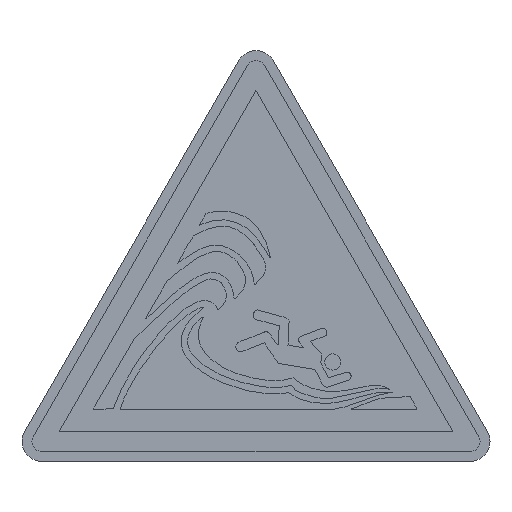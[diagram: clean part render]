
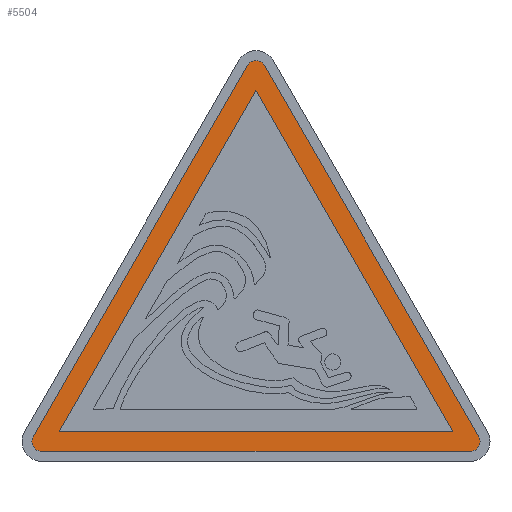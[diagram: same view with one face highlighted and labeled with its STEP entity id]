
A CAD part, top view. The second image highlights one B-rep face of the part: STEP entity #5504.
In plain terms, the highlighted planar face has unit normal (0, 0, 1).
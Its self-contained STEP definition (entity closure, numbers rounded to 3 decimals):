
#102 = CARTESIAN_POINT ( 'NONE',  ( 0., 39.301, 0.22 ) ) ;
#329 = VERTEX_POINT ( 'NONE', #4854 ) ;
#998 = EDGE_CURVE ( 'NONE', #4666, #9680, #3968, .T. ) ;
#1261 = VECTOR ( 'NONE', #10037, 1000. ) ;
#1443 = VECTOR ( 'NONE', #4115, 1000. ) ;
#1560 = ORIENTED_EDGE ( 'NONE', *, *, #4547, .T. ) ;
#1707 = DIRECTION ( 'NONE',  ( 0., 0., 1. ) ) ;
#2191 = DIRECTION ( 'NONE',  ( 1., 0., 0. ) ) ;
#2283 = CARTESIAN_POINT ( 'NONE',  ( -21.536, 1., 0.22 ) ) ;
#2492 = CARTESIAN_POINT ( 'NONE',  ( -21.536, 1., 0.22 ) ) ;
#2601 = CARTESIAN_POINT ( 'NONE',  ( 0.866, 39.801, 0.22 ) ) ;
#2767 = AXIS2_PLACEMENT_3D ( 'NONE', #14704, #1707, #3029 ) ;
#2775 = CARTESIAN_POINT ( 'NONE',  ( -19.804, 3., 0.22 ) ) ;
#3015 = CARTESIAN_POINT ( 'NONE',  ( -22.402, 2.5, 0.22 ) ) ;
#3029 = DIRECTION ( 'NONE',  ( 1., 0., 0. ) ) ;
#3062 = VECTOR ( 'NONE', #4689, 1000. ) ;
#3126 = AXIS2_PLACEMENT_3D ( 'NONE', #14872, #7164, #12338 ) ;
#3482 = VECTOR ( 'NONE', #14672, 1000. ) ;
#3654 = LINE ( 'NONE', #12604, #1443 ) ;
#3666 = CIRCLE ( 'NONE', #3126, 1. ) ;
#3968 = CIRCLE ( 'NONE', #16368, 1. ) ;
#4115 = DIRECTION ( 'NONE',  ( 1., 0., 0. ) ) ;
#4349 = CARTESIAN_POINT ( 'NONE',  ( 21.536, 2., 0.22 ) ) ;
#4473 = ORIENTED_EDGE ( 'NONE', *, *, #11512, .T. ) ;
#4547 = EDGE_CURVE ( 'NONE', #329, #6539, #11491, .T. ) ;
#4666 = VERTEX_POINT ( 'NONE', #15185 ) ;
#4679 = VERTEX_POINT ( 'NONE', #2601 ) ;
#4689 = DIRECTION ( 'NONE',  ( -0.5, 0.866, 0. ) ) ;
#4778 = CARTESIAN_POINT ( 'NONE',  ( 22.402, 2.5, 0.22 ) ) ;
#4854 = CARTESIAN_POINT ( 'NONE',  ( -0.866, 39.801, 0.22 ) ) ;
#4894 = DIRECTION ( 'NONE',  ( 1., 0., 0. ) ) ;
#5219 = DIRECTION ( 'NONE',  ( 0., 0., 1. ) ) ;
#5442 = ORIENTED_EDGE ( 'NONE', *, *, #13391, .T. ) ;
#5504 = ADVANCED_FACE ( 'NONE', ( #14785, #10728 ), #13272, .T. ) ;
#6238 = VECTOR ( 'NONE', #2191, 1000. ) ;
#6256 = ORIENTED_EDGE ( 'NONE', *, *, #11839, .F. ) ;
#6445 = EDGE_CURVE ( 'NONE', #13539, #11587, #3654, .T. ) ;
#6539 = VERTEX_POINT ( 'NONE', #3015 ) ;
#6713 = EDGE_CURVE ( 'NONE', #11734, #4679, #9997, .T. ) ;
#7164 = DIRECTION ( 'NONE',  ( 0., 0., 1. ) ) ;
#7170 = CARTESIAN_POINT ( 'NONE',  ( -21.536, 2., 0.22 ) ) ;
#7297 = LINE ( 'NONE', #11287, #16292 ) ;
#7345 = ORIENTED_EDGE ( 'NONE', *, *, #6445, .F. ) ;
#7655 = EDGE_CURVE ( 'NONE', #6539, #4666, #3666, .T. ) ;
#8055 = CIRCLE ( 'NONE', #14574, 1. ) ;
#8398 = LINE ( 'NONE', #2283, #6238 ) ;
#8564 = EDGE_LOOP ( 'NONE', ( #4473, #1560, #16700, #10056, #5442, #8830, #14048 ) ) ;
#8661 = CARTESIAN_POINT ( 'NONE',  ( -0.866, 39.801, 0.22 ) ) ;
#8830 = ORIENTED_EDGE ( 'NONE', *, *, #11931, .T. ) ;
#9264 = VERTEX_POINT ( 'NONE', #16083 ) ;
#9489 = DIRECTION ( 'NONE',  ( 0., 0., 1. ) ) ;
#9587 = DIRECTION ( 'NONE',  ( 1., 0., 0. ) ) ;
#9680 = VERTEX_POINT ( 'NONE', #2492 ) ;
#9782 = DIRECTION ( 'NONE',  ( 0., 0., 1. ) ) ;
#9997 = LINE ( 'NONE', #4778, #3062 ) ;
#10013 = CARTESIAN_POINT ( 'NONE',  ( 19.804, 3., 0.22 ) ) ;
#10037 = DIRECTION ( 'NONE',  ( -0.5, -0.866, 0. ) ) ;
#10056 = ORIENTED_EDGE ( 'NONE', *, *, #998, .T. ) ;
#10728 = FACE_BOUND ( 'NONE', #15795, .T. ) ;
#10780 = LINE ( 'NONE', #14596, #3482 ) ;
#10855 = ORIENTED_EDGE ( 'NONE', *, *, #16281, .F. ) ;
#11281 = AXIS2_PLACEMENT_3D ( 'NONE', #102, #5219, #15552 ) ;
#11287 = CARTESIAN_POINT ( 'NONE',  ( 0., 37.301, 0.22 ) ) ;
#11491 = LINE ( 'NONE', #8661, #1261 ) ;
#11512 = EDGE_CURVE ( 'NONE', #4679, #329, #11837, .T. ) ;
#11550 = CARTESIAN_POINT ( 'NONE',  ( 22.402, 2.5, 0.22 ) ) ;
#11587 = VERTEX_POINT ( 'NONE', #10013 ) ;
#11734 = VERTEX_POINT ( 'NONE', #11550 ) ;
#11837 = CIRCLE ( 'NONE', #11281, 1. ) ;
#11839 = EDGE_CURVE ( 'NONE', #11587, #9264, #10780, .T. ) ;
#11931 = EDGE_CURVE ( 'NONE', #14600, #11734, #8055, .T. ) ;
#12338 = DIRECTION ( 'NONE',  ( 1., 0., 0. ) ) ;
#12567 = CARTESIAN_POINT ( 'NONE',  ( 21.536, 1., 0.22 ) ) ;
#12604 = CARTESIAN_POINT ( 'NONE',  ( -19.804, 3., 0.22 ) ) ;
#12646 = DIRECTION ( 'NONE',  ( -0.5, -0.866, 0. ) ) ;
#13272 = PLANE ( 'NONE',  #2767 ) ;
#13391 = EDGE_CURVE ( 'NONE', #9680, #14600, #8398, .T. ) ;
#13539 = VERTEX_POINT ( 'NONE', #2775 ) ;
#14048 = ORIENTED_EDGE ( 'NONE', *, *, #6713, .T. ) ;
#14574 = AXIS2_PLACEMENT_3D ( 'NONE', #4349, #9489, #9587 ) ;
#14596 = CARTESIAN_POINT ( 'NONE',  ( 19.804, 3., 0.22 ) ) ;
#14600 = VERTEX_POINT ( 'NONE', #12567 ) ;
#14672 = DIRECTION ( 'NONE',  ( -0.5, 0.866, 0. ) ) ;
#14704 = CARTESIAN_POINT ( 'NONE',  ( 0., 39.301, 0.22 ) ) ;
#14785 = FACE_OUTER_BOUND ( 'NONE', #8564, .T. ) ;
#14872 = CARTESIAN_POINT ( 'NONE',  ( -21.536, 2., 0.22 ) ) ;
#15185 = CARTESIAN_POINT ( 'NONE',  ( -22.536, 2., 0.22 ) ) ;
#15552 = DIRECTION ( 'NONE',  ( 1., 0., 0. ) ) ;
#15795 = EDGE_LOOP ( 'NONE', ( #7345, #10855, #6256 ) ) ;
#16083 = CARTESIAN_POINT ( 'NONE',  ( 0., 37.301, 0.22 ) ) ;
#16281 = EDGE_CURVE ( 'NONE', #9264, #13539, #7297, .T. ) ;
#16292 = VECTOR ( 'NONE', #12646, 1000. ) ;
#16368 = AXIS2_PLACEMENT_3D ( 'NONE', #7170, #9782, #4894 ) ;
#16700 = ORIENTED_EDGE ( 'NONE', *, *, #7655, .T. ) ;
